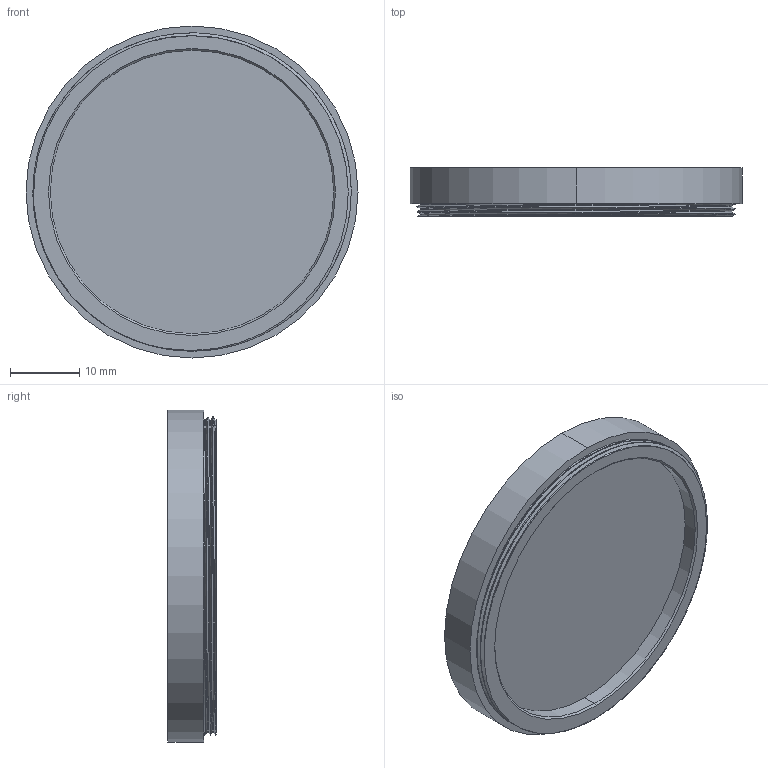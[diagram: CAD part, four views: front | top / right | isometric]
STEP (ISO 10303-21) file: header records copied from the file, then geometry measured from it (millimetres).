
FILE_DESCRIPTION (( 'STEP AP214' ), '1' );
FILE_NAME ('M46 x P0.75.STEP', '2023-01-19T08:18:02', ( '' ), ( '' ), 'SwSTEP 2.0', 'SolidWorks 2021', '' );
FILE_SCHEMA (( 'AUTOMOTIVE_DESIGN' ));
Length unit declared in the file: millimetre
Products named in the file (1): M46 x P0.75
Bounding box: 48 x 7 x 48 mm (x, y, z)
Volume: 2596.6 mm3; surface area: 6978.6 mm2
Topology: 3 solids, 3 shells, 47 faces, 114 edges, 76 vertices
Faces by surface type: cylinder 25, plane 11, bspline 9, cone 2
Entity records: 3230 total; most frequent: CARTESIAN_POINT 2202, ORIENTED_EDGE 228, DIRECTION 173, EDGE_CURVE 114, VERTEX_POINT 76, AXIS2_PLACEMENT_3D 73, EDGE_LOOP 54, ADVANCED_FACE 47
